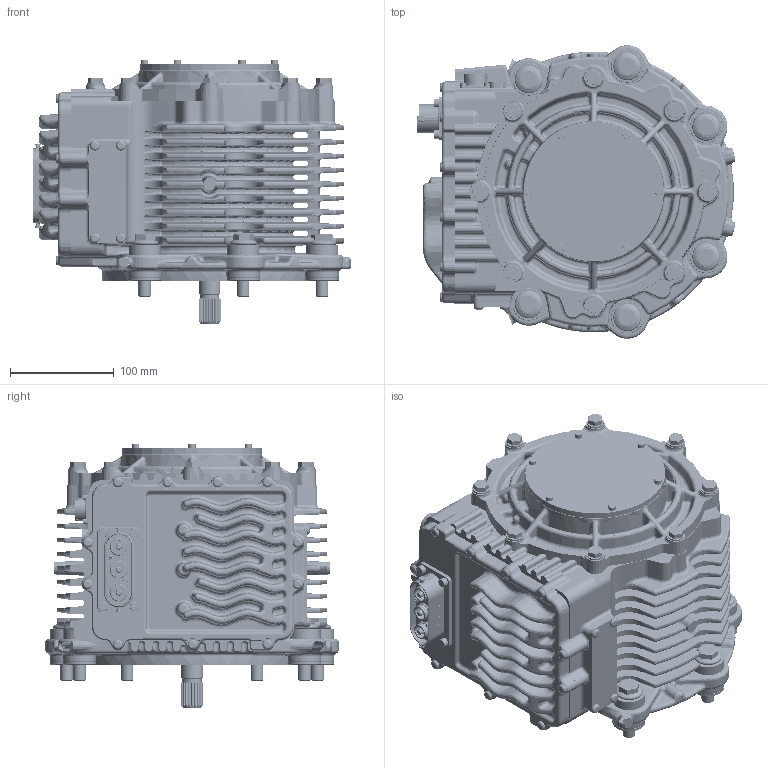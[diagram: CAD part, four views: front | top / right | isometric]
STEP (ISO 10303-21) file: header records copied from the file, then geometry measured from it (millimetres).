
FILE_DESCRIPTION(/* description */ (''),/* implementation_level */ '2;1');
FILE_NAME(/* name */ 'AEM-21150100017_Generic No Fan and Cowl.stp',/* time_stamp */ '2024-02-26T09:41:31Z',/* author */ ('Stephen.Addison'),/* organization */ (''),/* preprocessor_version */ 'ST-DEVELOPER v19.2',/* originating_system */ 'Autodesk Inventor 2023',/* authorisation */ '');
FILE_SCHEMA (('AUTOMOTIVE_DESIGN { 1 0 10303 214 3 1 1 }'));
Products named in the file (1): AEM-21150100017_Simplify_1
Bounding box: 306.7 x 282.48 x 254.05 mm (x, y, z)
Volume: 5166205.9 mm3; surface area: 1070962.6 mm2
Topology: 5 solids, 1316 shells, 8300 faces, 24349 edges, 17441 vertices
Faces by surface type: plane 3237, bspline 2085, cylinder 1385, torus 663, cone 471, sphere 459
Full cylindrical faces by diameter (mm): 1.562 x3, 1.6 x3, 1.981 x3, 3.242 x4, 5 x5, 5.5 x4, 5.8 x2, 7 x6, 8.5 x4, 8.9 x1, 9.5 x15, 9.52 x1, 10.376 x1, 11 x2, 11.4 x8, 12 x6, 16 x8, 17.12 x1, 18.4 x1, 19 x1, 20.625 x1, 20.93 x1, 21 x1, 21.1 x1, 25 x2, 28.2 x2, 31 x6, 32 x6, 33.2 x2, 34 x1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
Entity records: 340293 total; most frequent: CARTESIAN_POINT 130613, ORIENTED_EDGE 42293, DIRECTION 37184, EDGE_CURVE 24321, VERTEX_POINT 17451, AXIS2_PLACEMENT_3D 14228, LINE 8728, VECTOR 8728
